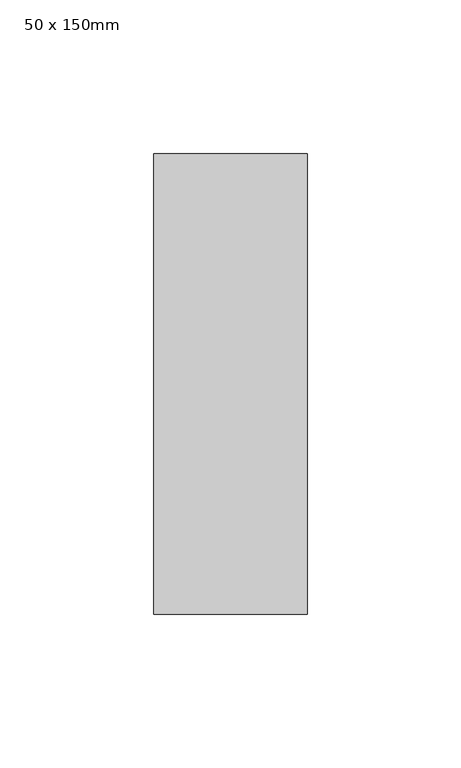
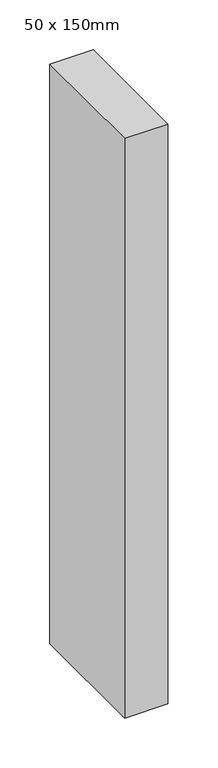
"""IFC4 building model written with IfcOpenShell, lengths in millimetres: member geometry, Прямоугольный импост : 50 x 150mm."""

from ifc_helpers import new_model, si_unit, frame, origin, place, context, project, spatial, polyline, outline, extrude, source, transform, mapped, element, save


def member_50_x_150mm_754701be(model_context):
    return source(origin(), model_context, "Body", "SweptSolid", [
        extrude(outline(polyline([(0.0, 75.0), (0.0, -75.0), (-50.0, -75.0), (-50.0, 75.0), (0.0, 75.0)])), frame((0.0, 0.0, -710.0), z_axis=(0.0, 0.0, 1.0), x_axis=(1.0, 0.0, 0.0)), (0.0, 0.0, 1.0), 710.0),
    ])


if __name__ == "__main__":
    model = new_model("IFC4")
    model_context = context("Model", 3, world=origin())
    ifc_project = project(units=[si_unit("LENGTHUNIT", "METRE", prefix="MILLI")], contexts=[model_context])
    site = spatial("IfcSite", under=ifc_project)
    building = spatial("IfcBuilding", under=site)
    placement = place(None, origin())
    member_50_x_150mm_shape = member_50_x_150mm_754701be(model_context)
    element("IfcMember", 1, ObjectType="Прямоугольный импост : 50 x 150mm", at=placement, inside=building, context=model_context, shape_type="MappedRepresentation", body=[
        mapped(member_50_x_150mm_shape, transform((0.0, 0.0, 0.0), x_axis=(1.0, 0.0, 0.0), y_axis=(0.0, 1.0, 0.0), z_axis=(0.0, 0.0, 1.0))),
    ])
    save(model, "model.ifc")
